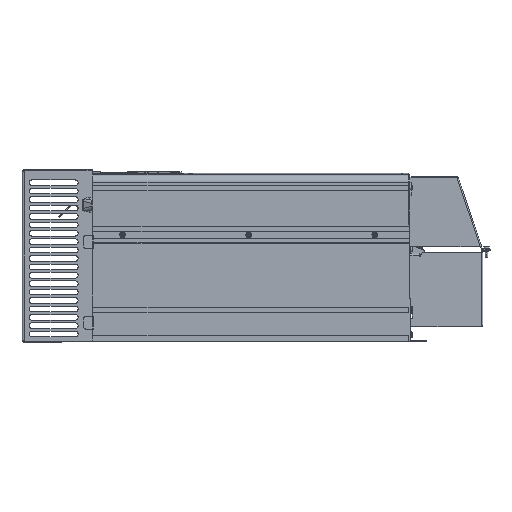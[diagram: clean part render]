
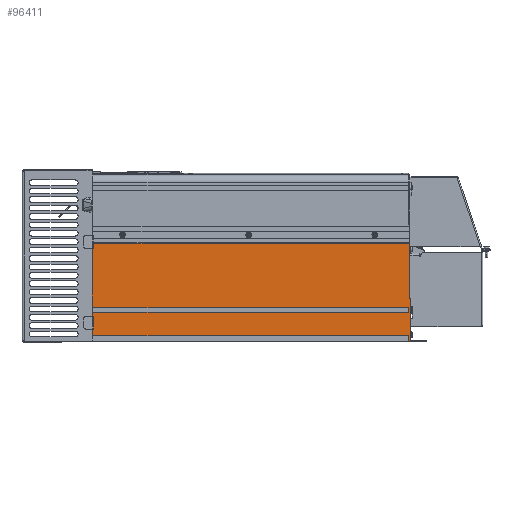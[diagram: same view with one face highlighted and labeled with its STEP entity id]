
A CAD part, left-side view. The second image highlights one B-rep face of the part: STEP entity #96411.
In plain terms, the highlighted planar face has unit normal (-1, 0, 0).
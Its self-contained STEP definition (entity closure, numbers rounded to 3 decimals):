
#3439=DIRECTION('',(0.,0.,1.));
#3440=VECTOR('',#3439,8.);
#3441=CARTESIAN_POINT('',(-115.,-227.95,1.1));
#3442=LINE('',#3441,#3440);
#3463=DIRECTION('',(0.,0.,1.));
#3464=VECTOR('',#3463,6.6);
#3465=CARTESIAN_POINT('',(-115.,-227.95,42.1));
#3466=LINE('',#3465,#3464);
#5288=DIRECTION('',(0.,-1.,0.));
#5289=VECTOR('',#5288,1.);
#5290=CARTESIAN_POINT('',(-115.,-229.45,62.5));
#5291=LINE('',#5290,#5289);
#5292=DIRECTION('',(0.,0.,-1.));
#5293=VECTOR('',#5292,60.);
#5294=CARTESIAN_POINT('',(-115.,-230.45,62.5));
#5295=LINE('',#5294,#5293);
#5296=DIRECTION('',(0.,-1.,0.));
#5297=VECTOR('',#5296,17.8);
#5298=CARTESIAN_POINT('',(-115.,-230.45,2.5));
#5299=LINE('',#5298,#5297);
#5300=DIRECTION('',(0.,0.,1.));
#5301=VECTOR('',#5300,2.5);
#5302=CARTESIAN_POINT('',(-115.,-248.25,0.));
#5303=LINE('',#5302,#5301);
#5304=DIRECTION('',(0.,0.,1.));
#5305=VECTOR('',#5304,1.);
#5306=CARTESIAN_POINT('',(-115.,211.75,0.));
#5307=LINE('',#5306,#5305);
#5308=DIRECTION('',(0.,1.,0.));
#5309=VECTOR('',#5308,12.);
#5310=CARTESIAN_POINT('',(-115.,211.75,1.));
#5311=LINE('',#5310,#5309);
#5312=DIRECTION('',(0.,0.,1.));
#5313=VECTOR('',#5312,1.);
#5314=CARTESIAN_POINT('',(-115.,223.75,0.));
#5315=LINE('',#5314,#5313);
#5316=DIRECTION('',(0.,-1.,0.));
#5317=VECTOR('',#5316,451.7);
#5318=CARTESIAN_POINT('',(-115.,223.75,1.1));
#5319=LINE('',#5318,#5317);
#5320=DIRECTION('',(0.,-1.,0.));
#5321=VECTOR('',#5320,451.7);
#5322=CARTESIAN_POINT('',(-115.,223.75,9.1));
#5323=LINE('',#5322,#5321);
#5324=DIRECTION('',(0.,0.,-1.));
#5325=VECTOR('',#5324,12.4);
#5326=CARTESIAN_POINT('',(-115.,223.75,21.5));
#5327=LINE('',#5326,#5325);
#5328=DIRECTION('',(0.,0.,-1.));
#5329=VECTOR('',#5328,8.6);
#5330=CARTESIAN_POINT('',(-115.,223.75,42.1));
#5331=LINE('',#5330,#5329);
#5332=DIRECTION('',(0.,-1.,0.));
#5333=VECTOR('',#5332,451.7);
#5334=CARTESIAN_POINT('',(-115.,223.75,42.1));
#5335=LINE('',#5334,#5333);
#5336=DIRECTION('',(0.,-1.,0.));
#5337=VECTOR('',#5336,451.7);
#5338=CARTESIAN_POINT('',(-115.,223.75,48.7));
#5339=LINE('',#5338,#5337);
#5340=DIRECTION('',(0.,0.,-1.));
#5341=VECTOR('',#5340,87.8);
#5342=CARTESIAN_POINT('',(-115.,223.75,136.5));
#5343=LINE('',#5342,#5341);
#6276=DIRECTION('',(0.,0.,-1.));
#6277=VECTOR('',#6276,12.);
#6278=CARTESIAN_POINT('',(-115.,223.75,33.5));
#6279=LINE('',#6278,#6277);
#6676=DIRECTION('',(0.,0.,1.));
#6677=VECTOR('',#6676,1.4);
#6678=CARTESIAN_POINT('',(-115.,223.75,1.1));
#6679=LINE('',#6678,#6677);
#6778=DIRECTION('',(0.,0.,-1.));
#6779=VECTOR('',#6778,4.6);
#6780=CARTESIAN_POINT('',(-115.,223.75,141.1));
#6781=LINE('',#6780,#6779);
#15797=DIRECTION('',(0.,0.,-1.));
#15798=VECTOR('',#15797,78.6);
#15799=CARTESIAN_POINT('',(-115.,-229.45,141.1));
#15800=LINE('',#15799,#15798);
#18583=DIRECTION('',(0.,1.,0.));
#18584=VECTOR('',#18583,33.);
#18585=CARTESIAN_POINT('',(-115.,226.75,2.5));
#18586=LINE('',#18585,#18584);
#18923=DIRECTION('',(0.,1.,0.));
#18924=VECTOR('',#18923,453.2);
#18925=CARTESIAN_POINT('',(-115.,-229.45,141.1));
#18926=LINE('',#18925,#18924);
#19211=DIRECTION('',(0.,1.,0.));
#19212=VECTOR('',#19211,3.);
#19213=CARTESIAN_POINT('',(-115.,223.75,2.5));
#19214=LINE('',#19213,#19212);
#40144=DIRECTION('',(0.,0.,1.));
#40145=VECTOR('',#40144,2.5);
#40146=CARTESIAN_POINT('',(-115.,259.75,0.));
#40147=LINE('',#40146,#40145);
#40204=DIRECTION('',(0.,-1.,0.));
#40205=VECTOR('',#40204,36.);
#40206=CARTESIAN_POINT('',(-115.,259.75,0.));
#40207=LINE('',#40206,#40205);
#40248=DIRECTION('',(0.,-1.,0.));
#40249=VECTOR('',#40248,460.);
#40250=CARTESIAN_POINT('',(-115.,211.75,0.));
#40251=LINE('',#40250,#40249);
#74651=CARTESIAN_POINT('',(-115.,223.75,136.5));
#74652=VERTEX_POINT('',#74651);
#74723=CARTESIAN_POINT('',(-115.,223.75,21.5));
#74725=VERTEX_POINT('',#74723);
#74727=CARTESIAN_POINT('',(-115.,223.75,33.5));
#74729=VERTEX_POINT('',#74727);
#76410=CARTESIAN_POINT('',(-115.,223.75,9.1));
#76411=VERTEX_POINT('',#76410);
#76416=CARTESIAN_POINT('',(-115.,223.75,141.1));
#76417=VERTEX_POINT('',#76416);
#76466=CARTESIAN_POINT('',(-115.,259.75,0.));
#76468=VERTEX_POINT('',#76466);
#76476=CARTESIAN_POINT('',(-115.,259.75,2.5));
#76478=VERTEX_POINT('',#76476);
#76484=CARTESIAN_POINT('',(-115.,226.75,2.5));
#76485=VERTEX_POINT('',#76484);
#76490=CARTESIAN_POINT('',(-115.,223.75,1.1));
#76491=CARTESIAN_POINT('',(-115.,223.75,2.5));
#76492=VERTEX_POINT('',#76490);
#76493=VERTEX_POINT('',#76491);
#76522=CARTESIAN_POINT('',(-115.,-227.95,1.1));
#76523=CARTESIAN_POINT('',(-115.,-227.95,9.1));
#76524=VERTEX_POINT('',#76522);
#76525=VERTEX_POINT('',#76523);
#76562=CARTESIAN_POINT('',(-115.,-248.25,2.5));
#76564=VERTEX_POINT('',#76562);
#76568=CARTESIAN_POINT('',(-115.,-248.25,0.));
#76569=VERTEX_POINT('',#76568);
#76578=CARTESIAN_POINT('',(-115.,-230.45,2.5));
#76579=VERTEX_POINT('',#76578);
#76626=CARTESIAN_POINT('',(-115.,-230.45,62.5));
#76627=VERTEX_POINT('',#76626);
#77824=CARTESIAN_POINT('',(-115.,223.75,48.7));
#77825=VERTEX_POINT('',#77824);
#77830=CARTESIAN_POINT('',(-115.,223.75,42.1));
#77831=VERTEX_POINT('',#77830);
#77840=CARTESIAN_POINT('',(-115.,-227.95,42.1));
#77841=CARTESIAN_POINT('',(-115.,-227.95,48.7));
#77842=VERTEX_POINT('',#77840);
#77843=VERTEX_POINT('',#77841);
#79444=CARTESIAN_POINT('',(-115.,211.75,1.));
#79445=CARTESIAN_POINT('',(-115.,223.75,1.));
#79446=VERTEX_POINT('',#79444);
#79447=VERTEX_POINT('',#79445);
#79448=CARTESIAN_POINT('',(-115.,211.75,0.));
#79449=VERTEX_POINT('',#79448);
#79450=CARTESIAN_POINT('',(-115.,223.75,0.));
#79451=VERTEX_POINT('',#79450);
#84814=CARTESIAN_POINT('',(-115.,-229.45,141.1));
#84815=VERTEX_POINT('',#84814);
#84882=CARTESIAN_POINT('',(-115.,-229.45,62.5));
#84884=VERTEX_POINT('',#84882);
#96355=CARTESIAN_POINT('',(-115.,223.75,227.));
#96356=DIRECTION('',(-1.,0.,0.));
#96357=DIRECTION('',(0.,0.,-1.));
#96358=AXIS2_PLACEMENT_3D('',#96355,#96356,#96357);
#96359=PLANE('',#96358);
#96361=ORIENTED_EDGE('',*,*,#96360,.F.);
#96363=ORIENTED_EDGE('',*,*,#96362,.T.);
#96365=ORIENTED_EDGE('',*,*,#96364,.T.);
#96366=ORIENTED_EDGE('',*,*,#92404,.T.);
#96368=ORIENTED_EDGE('',*,*,#96367,.T.);
#96370=ORIENTED_EDGE('',*,*,#96369,.F.);
#96372=ORIENTED_EDGE('',*,*,#96371,.F.);
#96374=ORIENTED_EDGE('',*,*,#96373,.T.);
#96376=ORIENTED_EDGE('',*,*,#96375,.T.);
#96378=ORIENTED_EDGE('',*,*,#96377,.F.);
#96380=ORIENTED_EDGE('',*,*,#96379,.F.);
#96382=ORIENTED_EDGE('',*,*,#96381,.T.);
#96384=ORIENTED_EDGE('',*,*,#96383,.F.);
#96386=ORIENTED_EDGE('',*,*,#96385,.F.);
#96388=ORIENTED_EDGE('',*,*,#96387,.F.);
#96390=ORIENTED_EDGE('',*,*,#96389,.T.);
#96391=ORIENTED_EDGE('',*,*,#92635,.T.);
#96393=ORIENTED_EDGE('',*,*,#96392,.F.);
#96395=ORIENTED_EDGE('',*,*,#96394,.F.);
#96397=ORIENTED_EDGE('',*,*,#96396,.F.);
#96399=ORIENTED_EDGE('',*,*,#96398,.F.);
#96401=ORIENTED_EDGE('',*,*,#96400,.T.);
#96402=ORIENTED_EDGE('',*,*,#92681,.T.);
#96404=ORIENTED_EDGE('',*,*,#96403,.F.);
#96406=ORIENTED_EDGE('',*,*,#96405,.F.);
#96408=ORIENTED_EDGE('',*,*,#96407,.F.);
#96409=EDGE_LOOP('',(#96361,#96363,#96365,#96366,#96368,#96370,#96372,#96374,
#96376,#96378,#96380,#96382,#96384,#96386,#96388,#96390,#96391,#96393,#96395,
#96397,#96399,#96401,#96402,#96404,#96406,#96408));
#96410=FACE_OUTER_BOUND('',#96409,.F.);
#96411=ADVANCED_FACE('',(#96410),#96359,.T.);
#92404=EDGE_CURVE('',#76627,#76579,#5295,.T.);
#92635=EDGE_CURVE('',#76524,#76525,#3442,.T.);
#92681=EDGE_CURVE('',#77842,#77843,#3466,.T.);
#96360=EDGE_CURVE('',#84815,#76417,#18926,.T.);
#96362=EDGE_CURVE('',#84815,#84884,#15800,.T.);
#96364=EDGE_CURVE('',#84884,#76627,#5291,.T.);
#96367=EDGE_CURVE('',#76579,#76564,#5299,.T.);
#96369=EDGE_CURVE('',#76569,#76564,#5303,.T.);
#96371=EDGE_CURVE('',#79449,#76569,#40251,.T.);
#96373=EDGE_CURVE('',#79449,#79446,#5307,.T.);
#96375=EDGE_CURVE('',#79446,#79447,#5311,.T.);
#96377=EDGE_CURVE('',#79451,#79447,#5315,.T.);
#96379=EDGE_CURVE('',#76468,#79451,#40207,.T.);
#96381=EDGE_CURVE('',#76468,#76478,#40147,.T.);
#96383=EDGE_CURVE('',#76485,#76478,#18586,.T.);
#96385=EDGE_CURVE('',#76493,#76485,#19214,.T.);
#96387=EDGE_CURVE('',#76492,#76493,#6679,.T.);
#96389=EDGE_CURVE('',#76492,#76524,#5319,.T.);
#96392=EDGE_CURVE('',#76411,#76525,#5323,.T.);
#96394=EDGE_CURVE('',#74725,#76411,#5327,.T.);
#96396=EDGE_CURVE('',#74729,#74725,#6279,.T.);
#96398=EDGE_CURVE('',#77831,#74729,#5331,.T.);
#96400=EDGE_CURVE('',#77831,#77842,#5335,.T.);
#96403=EDGE_CURVE('',#77825,#77843,#5339,.T.);
#96405=EDGE_CURVE('',#74652,#77825,#5343,.T.);
#96407=EDGE_CURVE('',#76417,#74652,#6781,.T.);
